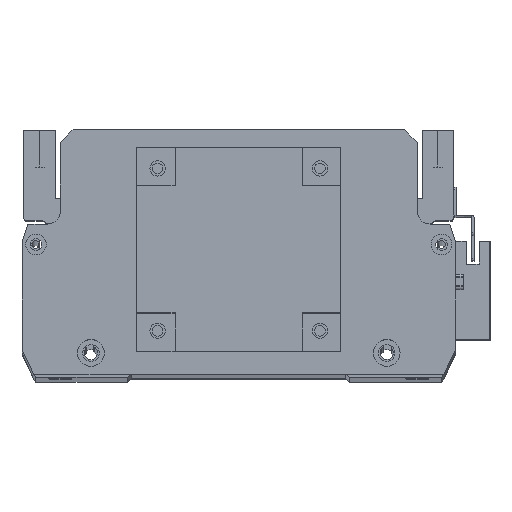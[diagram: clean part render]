
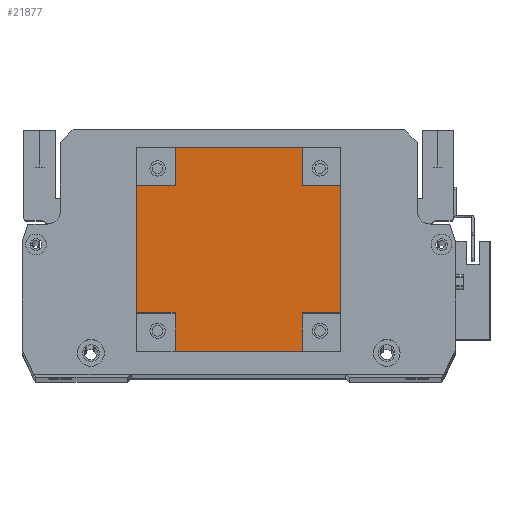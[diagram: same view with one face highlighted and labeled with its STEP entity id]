
A CAD part, top view. The second image highlights one B-rep face of the part: STEP entity #21877.
In plain terms, the highlighted planar face has unit normal (0, 0, 1).
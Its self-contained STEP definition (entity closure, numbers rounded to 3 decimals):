
#462 = VERTEX_POINT ( 'NONE', #7544 ) ;
#1433 = ORIENTED_EDGE ( 'NONE', *, *, #15017, .F. ) ;
#1496 = VERTEX_POINT ( 'NONE', #17421 ) ;
#1885 = CARTESIAN_POINT ( 'NONE',  ( 65., 15., 101.5 ) ) ;
#2535 = LINE ( 'NONE', #4335, #7565 ) ;
#3016 = DIRECTION ( 'NONE',  ( 0., 0., -1. ) ) ;
#3329 = DIRECTION ( 'NONE',  ( 0., 1., 0. ) ) ;
#3484 = VERTEX_POINT ( 'NONE', #25265 ) ;
#3561 = DIRECTION ( 'NONE',  ( -1., 0., 0. ) ) ;
#3734 = DIRECTION ( 'NONE',  ( 0., 1., 0. ) ) ;
#3795 = CARTESIAN_POINT ( 'NONE',  ( 0., 15., 101.5 ) ) ;
#4048 = ORIENTED_EDGE ( 'NONE', *, *, #11810, .F. ) ;
#4319 = VECTOR ( 'NONE', #19526, 1000. ) ;
#4335 = CARTESIAN_POINT ( 'NONE',  ( 0., 65., 101.5 ) ) ;
#5038 = CARTESIAN_POINT ( 'NONE',  ( 65., 80., 101.5 ) ) ;
#5204 = CARTESIAN_POINT ( 'NONE',  ( 65., 80., 101.5 ) ) ;
#5383 = CARTESIAN_POINT ( 'NONE',  ( 65., 65., 101.5 ) ) ;
#5515 = VECTOR ( 'NONE', #16632, 1000. ) ;
#5995 = LINE ( 'NONE', #5383, #12186 ) ;
#6724 = CARTESIAN_POINT ( 'NONE',  ( 65., 65., 101.5 ) ) ;
#6786 = ORIENTED_EDGE ( 'NONE', *, *, #23032, .T. ) ;
#7112 = EDGE_CURVE ( 'NONE', #11880, #21963, #26892, .T. ) ;
#7405 = VECTOR ( 'NONE', #21605, 1000. ) ;
#7544 = CARTESIAN_POINT ( 'NONE',  ( 65., 0., 101.5 ) ) ;
#7565 = VECTOR ( 'NONE', #10595, 1000. ) ;
#7613 = VECTOR ( 'NONE', #3329, 1000. ) ;
#7950 = AXIS2_PLACEMENT_3D ( 'NONE', #23704, #3016, #17587 ) ;
#8193 = LINE ( 'NONE', #24394, #20397 ) ;
#8287 = LINE ( 'NONE', #13690, #7613 ) ;
#8593 = CARTESIAN_POINT ( 'NONE',  ( 0., 15., 101.5 ) ) ;
#9671 = CARTESIAN_POINT ( 'NONE',  ( 15., 65., 101.5 ) ) ;
#9708 = CARTESIAN_POINT ( 'NONE',  ( 15., 80., 101.5 ) ) ;
#10020 = VERTEX_POINT ( 'NONE', #10348 ) ;
#10079 = EDGE_LOOP ( 'NONE', ( #10305, #4048, #10597, #18688, #1433, #21303, #16857, #25051, #16133, #6786, #26595, #19196 ) ) ;
#10305 = ORIENTED_EDGE ( 'NONE', *, *, #7112, .T. ) ;
#10348 = CARTESIAN_POINT ( 'NONE',  ( 80., 65., 101.5 ) ) ;
#10595 = DIRECTION ( 'NONE',  ( 1., 0., 0. ) ) ;
#10597 = ORIENTED_EDGE ( 'NONE', *, *, #14495, .F. ) ;
#11111 = EDGE_CURVE ( 'NONE', #1496, #462, #16017, .T. ) ;
#11509 = DIRECTION ( 'NONE',  ( -1., 0., 0. ) ) ;
#11810 = EDGE_CURVE ( 'NONE', #11949, #21963, #20858, .T. ) ;
#11880 = VERTEX_POINT ( 'NONE', #5204 ) ;
#11949 = VERTEX_POINT ( 'NONE', #9671 ) ;
#12186 = VECTOR ( 'NONE', #21922, 1000. ) ;
#12294 = CARTESIAN_POINT ( 'NONE',  ( 15., 15., 101.5 ) ) ;
#13257 = CARTESIAN_POINT ( 'NONE',  ( 0., 65., 101.5 ) ) ;
#13308 = DIRECTION ( 'NONE',  ( 1., 0., 0. ) ) ;
#13415 = PLANE ( 'NONE',  #7950 ) ;
#13690 = CARTESIAN_POINT ( 'NONE',  ( 80., 0., 101.5 ) ) ;
#13981 = VERTEX_POINT ( 'NONE', #1885 ) ;
#14495 = EDGE_CURVE ( 'NONE', #21223, #11949, #2535, .T. ) ;
#14552 = VERTEX_POINT ( 'NONE', #6724 ) ;
#14778 = VECTOR ( 'NONE', #16637, 1000. ) ;
#15017 = EDGE_CURVE ( 'NONE', #22653, #23226, #17181, .T. ) ;
#15099 = VECTOR ( 'NONE', #3561, 1000. ) ;
#15360 = VECTOR ( 'NONE', #13308, 1000. ) ;
#15372 = EDGE_CURVE ( 'NONE', #1496, #22653, #8193, .T. ) ;
#15651 = FACE_OUTER_BOUND ( 'NONE', #10079, .T. ) ;
#15894 = EDGE_CURVE ( 'NONE', #13981, #462, #23255, .T. ) ;
#15910 = VECTOR ( 'NONE', #11509, 1000. ) ;
#16017 = LINE ( 'NONE', #19462, #15360 ) ;
#16133 = ORIENTED_EDGE ( 'NONE', *, *, #16788, .F. ) ;
#16632 = DIRECTION ( 'NONE',  ( -1., 0., 0. ) ) ;
#16637 = DIRECTION ( 'NONE',  ( 0., -1., 0. ) ) ;
#16788 = EDGE_CURVE ( 'NONE', #3484, #13981, #20627, .T. ) ;
#16857 = ORIENTED_EDGE ( 'NONE', *, *, #11111, .T. ) ;
#16880 = DIRECTION ( 'NONE',  ( 0., -1., 0. ) ) ;
#17181 = LINE ( 'NONE', #8593, #5515 ) ;
#17421 = CARTESIAN_POINT ( 'NONE',  ( 15., 0., 101.5 ) ) ;
#17587 = DIRECTION ( 'NONE',  ( -1., 0., 0. ) ) ;
#17804 = VECTOR ( 'NONE', #16880, 1000. ) ;
#18688 = ORIENTED_EDGE ( 'NONE', *, *, #25795, .T. ) ;
#18713 = EDGE_CURVE ( 'NONE', #14552, #10020, #5995, .T. ) ;
#18888 = CARTESIAN_POINT ( 'NONE',  ( 65., 0., 101.5 ) ) ;
#19020 = LINE ( 'NONE', #5038, #7405 ) ;
#19196 = ORIENTED_EDGE ( 'NONE', *, *, #20067, .F. ) ;
#19462 = CARTESIAN_POINT ( 'NONE',  ( 0., 0., 101.5 ) ) ;
#19526 = DIRECTION ( 'NONE',  ( 0., 1., 0. ) ) ;
#20067 = EDGE_CURVE ( 'NONE', #11880, #14552, #19020, .T. ) ;
#20308 = LINE ( 'NONE', #24861, #14778 ) ;
#20397 = VECTOR ( 'NONE', #3734, 1000. ) ;
#20627 = LINE ( 'NONE', #24327, #15099 ) ;
#20858 = LINE ( 'NONE', #21577, #4319 ) ;
#21223 = VERTEX_POINT ( 'NONE', #13257 ) ;
#21303 = ORIENTED_EDGE ( 'NONE', *, *, #15372, .F. ) ;
#21577 = CARTESIAN_POINT ( 'NONE',  ( 15., 80., 101.5 ) ) ;
#21605 = DIRECTION ( 'NONE',  ( 0., -1., 0. ) ) ;
#21877 = ADVANCED_FACE ( 'NONE', ( #15651 ), #13415, .F. ) ;
#21922 = DIRECTION ( 'NONE',  ( 1., 0., 0. ) ) ;
#21963 = VERTEX_POINT ( 'NONE', #9708 ) ;
#22653 = VERTEX_POINT ( 'NONE', #12294 ) ;
#23032 = EDGE_CURVE ( 'NONE', #3484, #10020, #8287, .T. ) ;
#23226 = VERTEX_POINT ( 'NONE', #3795 ) ;
#23255 = LINE ( 'NONE', #18888, #17804 ) ;
#23704 = CARTESIAN_POINT ( 'NONE',  ( 0., 0., 101.5 ) ) ;
#23833 = CARTESIAN_POINT ( 'NONE',  ( 0., 80., 101.5 ) ) ;
#24327 = CARTESIAN_POINT ( 'NONE',  ( 80., 15., 101.5 ) ) ;
#24394 = CARTESIAN_POINT ( 'NONE',  ( 15., 0., 101.5 ) ) ;
#24861 = CARTESIAN_POINT ( 'NONE',  ( 0., 0., 101.5 ) ) ;
#25051 = ORIENTED_EDGE ( 'NONE', *, *, #15894, .F. ) ;
#25265 = CARTESIAN_POINT ( 'NONE',  ( 80., 15., 101.5 ) ) ;
#25795 = EDGE_CURVE ( 'NONE', #21223, #23226, #20308, .T. ) ;
#26595 = ORIENTED_EDGE ( 'NONE', *, *, #18713, .F. ) ;
#26892 = LINE ( 'NONE', #23833, #15910 ) ;
